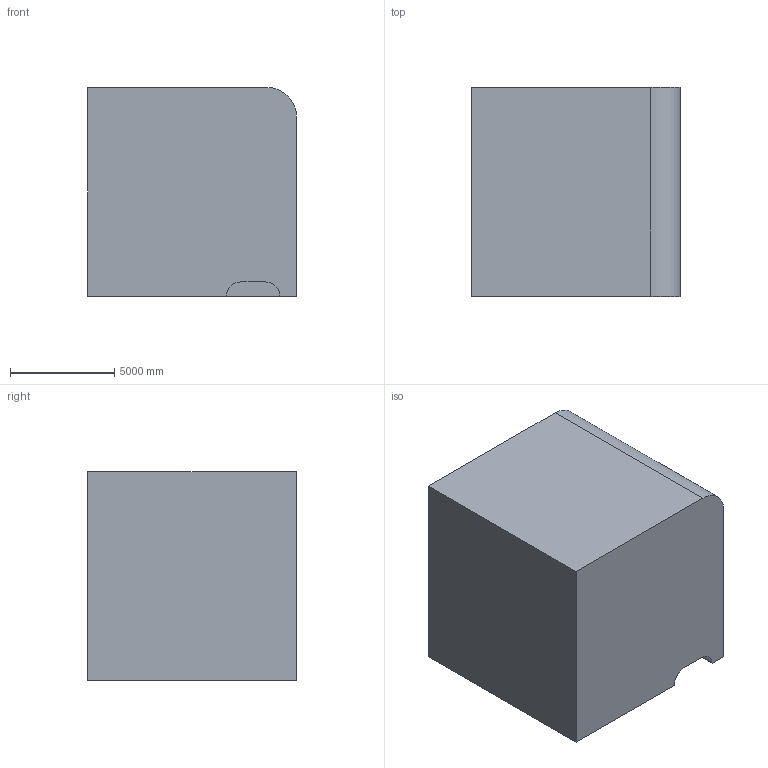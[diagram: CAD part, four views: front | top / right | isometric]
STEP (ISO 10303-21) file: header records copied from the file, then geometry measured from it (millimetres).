
FILE_DESCRIPTION (( 'STEP AP203' ), '1' );
FILE_NAME ('110.STEP', '2022-09-05T15:33:51', ( 'user' ), ( '' ), 'SwSTEP 2.0', 'SolidWorks 2021', '' );
FILE_SCHEMA (( 'CONFIG_CONTROL_DESIGN' ));
Length unit declared in the file: centimetre
Products named in the file (1): 110
Bounding box: 10000 x 10000 x 10000 mm (x, y, z)
Volume: 987753102032.3 mm3; surface area: 597075857 mm2
Topology: 1 solids, 1 shells, 11 faces, 27 edges, 18 vertices
Faces by surface type: plane 8, cylinder 3
Entity records: 404 total; most frequent: CARTESIAN_POINT 57, DIRECTION 57, ORIENTED_EDGE 54, EDGE_CURVE 27, VECTOR 21, LINE 21, VERTEX_POINT 18, AXIS2_PLACEMENT_3D 18
